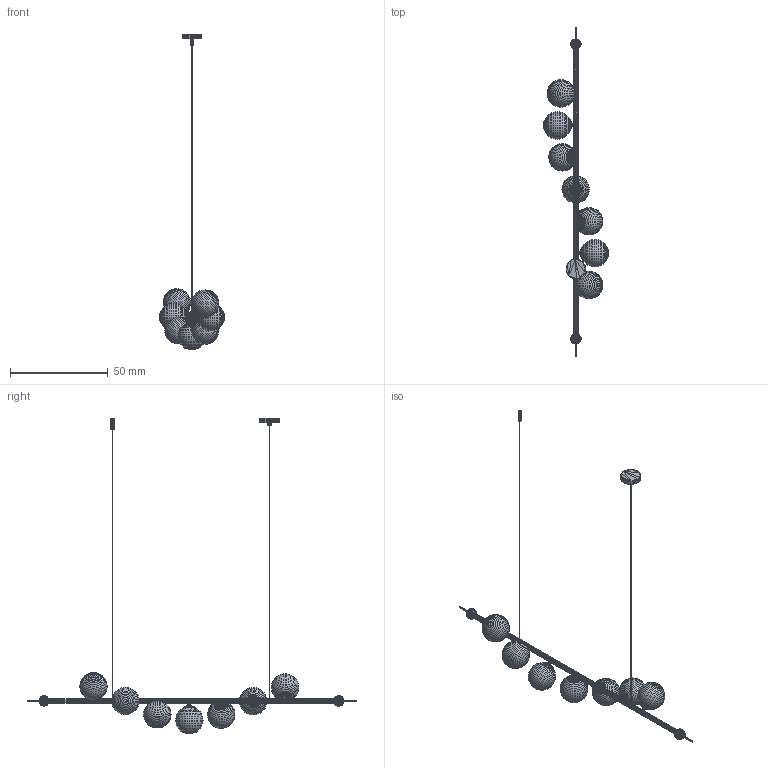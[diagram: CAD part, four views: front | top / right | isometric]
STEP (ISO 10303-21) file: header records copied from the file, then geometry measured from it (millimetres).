
FILE_DESCRIPTION(/* description */ (''),/* implementation_level */ '2;1');
FILE_NAME(/* name */ '1115T1',/* time_stamp */ '2023-03-07T19:19:44+01:00',/* author */ (''),/* organization */ (''),/* preprocessor_version */ 'ST-DEVELOPER v16.5',/* originating_system */ 'Rhino 7.22',/* authorisation */ '');
FILE_SCHEMA (('AUTOMOTIVE_DESIGN'));
Products named in the file (1): Document
Bounding box: 33.18 x 167.84 x 161.14 mm (x, y, z)
Volume: 11183 mm3; surface area: 6683.1 mm2
Topology: 32 solids, 32 shells, 21148 faces, 40817 edges, 19733 vertices
Faces by surface type: plane 17039, bspline 4109
Entity records: 436722 total; most frequent: CARTESIAN_POINT 134844, ORIENTED_EDGE 81634, EDGE_CURVE 40817, B_SPLINE_CURVE_WITH_KNOTS 40817, ADVANCED_FACE 21148, FACE_OUTER_BOUND 21148, EDGE_LOOP 21148, VERTEX_POINT 19733
